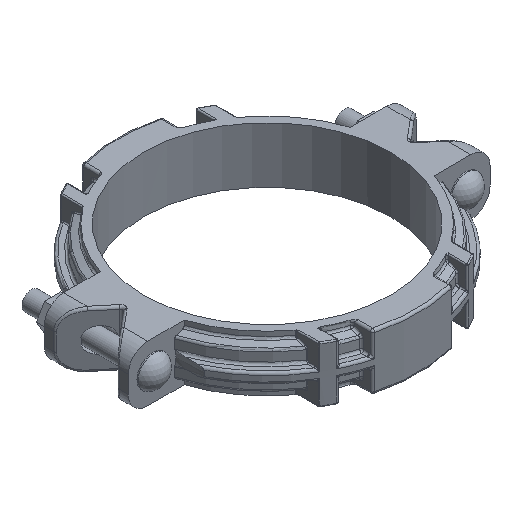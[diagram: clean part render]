
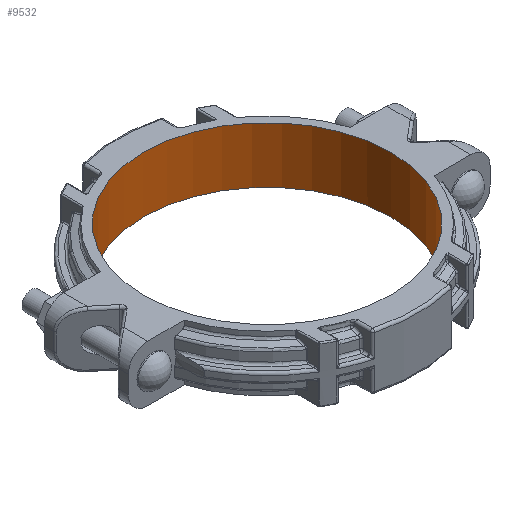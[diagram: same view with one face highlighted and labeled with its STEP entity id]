
A CAD part, isometric view. The second image highlights one B-rep face of the part: STEP entity #9532.
In plain terms, the highlighted cylindrical face has radius 168.275 mm (diameter 336.55 mm), a full revolution.
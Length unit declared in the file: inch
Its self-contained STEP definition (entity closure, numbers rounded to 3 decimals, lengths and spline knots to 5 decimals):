
#937=CYLINDRICAL_SURFACE('',#10539,6.625);
#1524=FACE_OUTER_BOUND('',#2111,.T.);
#2111=EDGE_LOOP('',(#8181,#8182,#8183,#8184,#8185,#8186));
#2518=LINE('',#22556,#2913);
#2913=VECTOR('',#12919,6.625);
#2979=CIRCLE('',#9675,6.625);
#2980=CIRCLE('',#9676,6.625);
#3012=CIRCLE('',#9735,6.625);
#3013=CIRCLE('',#9736,6.625);
#3605=VERTEX_POINT('',#13558);
#3606=VERTEX_POINT('',#13559);
#3680=VERTEX_POINT('',#13975);
#3681=VERTEX_POINT('',#13976);
#4429=EDGE_CURVE('',#3605,#3606,#2979,.T.);
#4430=EDGE_CURVE('',#3606,#3605,#2980,.T.);
#4524=EDGE_CURVE('',#3680,#3681,#3012,.T.);
#4525=EDGE_CURVE('',#3681,#3680,#3013,.T.);
#5600=EDGE_CURVE('',#3681,#3606,#2518,.T.);
#8181=ORIENTED_EDGE('',*,*,#4524,.T.);
#8182=ORIENTED_EDGE('',*,*,#5600,.T.);
#8183=ORIENTED_EDGE('',*,*,#4429,.F.);
#8184=ORIENTED_EDGE('',*,*,#4430,.F.);
#8185=ORIENTED_EDGE('',*,*,#5600,.F.);
#8186=ORIENTED_EDGE('',*,*,#4525,.T.);
#9532=ADVANCED_FACE('',(#1524),#937,.F.);
#9675=AXIS2_PLACEMENT_3D('',#13560,#10885,#10886);
#9676=AXIS2_PLACEMENT_3D('',#13561,#10887,#10888);
#9735=AXIS2_PLACEMENT_3D('',#13977,#11043,#11044);
#9736=AXIS2_PLACEMENT_3D('',#13978,#11045,#11046);
#10539=AXIS2_PLACEMENT_3D('',#22555,#12917,#12918);
#10885=DIRECTION('center_axis',(0.,0.,-1.));
#10886=DIRECTION('ref_axis',(1.,0.,0.));
#10887=DIRECTION('center_axis',(0.,0.,-1.));
#10888=DIRECTION('ref_axis',(1.,0.,0.));
#11043=DIRECTION('center_axis',(0.,0.,-1.));
#11044=DIRECTION('ref_axis',(-1.,0.,0.));
#11045=DIRECTION('center_axis',(0.,0.,-1.));
#11046=DIRECTION('ref_axis',(-1.,0.,0.));
#12917=DIRECTION('center_axis',(0.,0.,-1.));
#12918=DIRECTION('ref_axis',(0.,-1.,0.));
#12919=DIRECTION('',(0.,0.,1.));
#13558=CARTESIAN_POINT('',(6.23122,-2.25,1.5));
#13559=CARTESIAN_POINT('',(0.,6.625,1.5));
#13560=CARTESIAN_POINT('Origin',(0.,0.,1.5));
#13561=CARTESIAN_POINT('Origin',(0.,0.,1.5));
#13975=CARTESIAN_POINT('',(-6.625,0.,-1.5));
#13976=CARTESIAN_POINT('',(0.,6.625,-1.5));
#13977=CARTESIAN_POINT('Origin',(0.,0.,
-1.5));
#13978=CARTESIAN_POINT('Origin',(0.,0.,
-1.5));
#22555=CARTESIAN_POINT('Origin',(0.,0.,
0.));
#22556=CARTESIAN_POINT('',(0.,6.625,0.));
